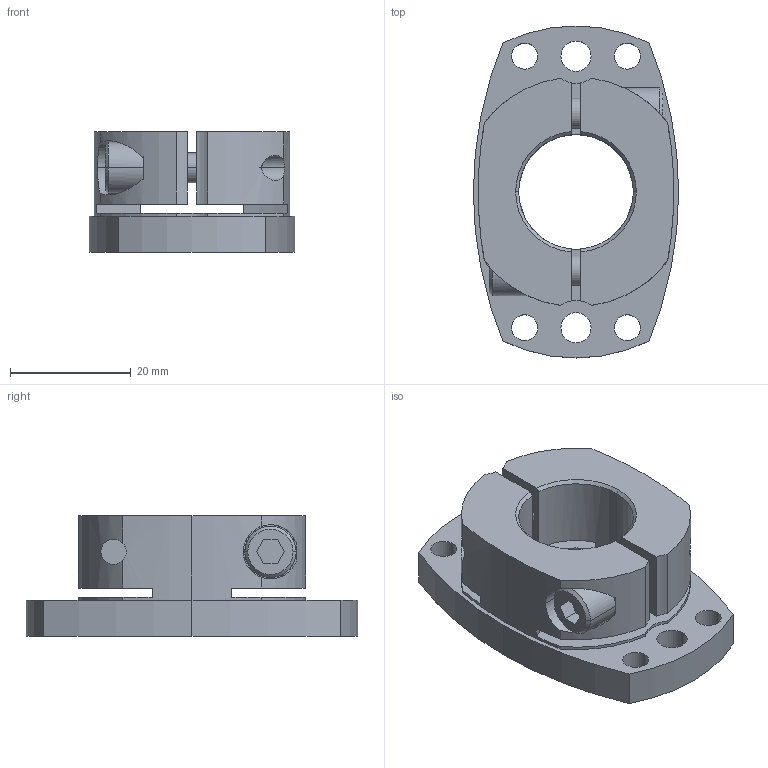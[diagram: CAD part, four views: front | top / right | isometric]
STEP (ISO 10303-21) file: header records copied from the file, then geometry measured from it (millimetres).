
FILE_DESCRIPTION((''),'2;1');
FILE_NAME('SHDB-55B-19.stp','2026-01-28T07:45:55',(''),(''),'AutoCAD STEP 2000i','AutoCAD 2000i',', , ');
FILE_SCHEMA(('CONFIG_CONTROL_DESIGN'));
Length unit declared in the file: millimetre
Products named in the file (2): SHDB-55B-17; 忣兜1
Assembly tree (1 placements, depth 2):
  SHDB-55B-17
    忣兜1
Bounding box: 34 x 55 x 20 mm (x, y, z)
Volume: 16624.1 mm3; surface area: 8742.4 mm2
Topology: 1 solids, 1 shells, 104 faces, 288 edges, 188 vertices
Faces by surface type: cylinder 58, plane 36, cone 10
Entity records: 3755 total; most frequent: CARTESIAN_POINT 862, DIRECTION 618, ORIENTED_EDGE 576, EDGE_CURVE 288, AXIS2_PLACEMENT_3D 244, VERTEX_POINT 188, CIRCLE 138, VECTOR 130
